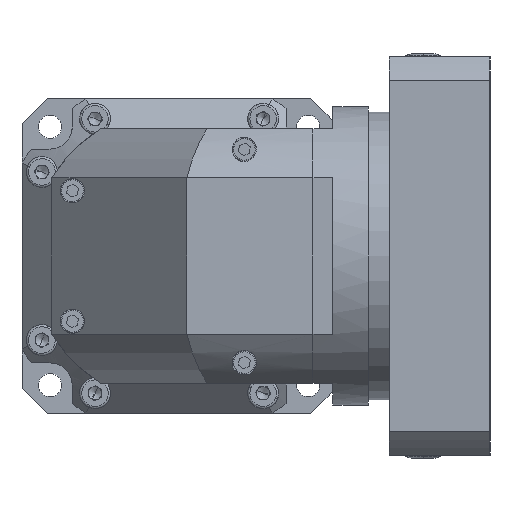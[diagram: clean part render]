
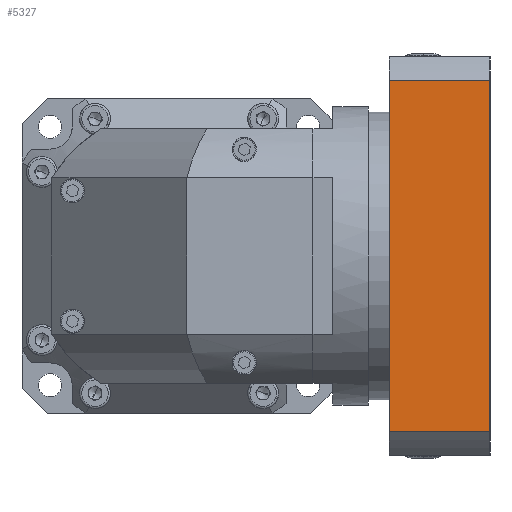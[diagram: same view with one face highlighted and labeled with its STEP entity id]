
A CAD part, left-side view. The second image highlights one B-rep face of the part: STEP entity #5327.
In plain terms, the highlighted planar face has unit normal (-1, 0, 0).
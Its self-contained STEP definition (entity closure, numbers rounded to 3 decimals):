
#119 = VECTOR ( 'NONE', #23715, 1000. ) ;
#2751 = VERTEX_POINT ( 'NONE', #17478 ) ;
#4899 = CARTESIAN_POINT ( 'NONE',  ( -217.5, -140.499, 0. ) ) ;
#5327 = ADVANCED_FACE ( 'NONE', ( #9488 ), #19821, .F. ) ;
#7541 = EDGE_CURVE ( 'NONE', #18194, #13943, #14035, .T. ) ;
#7959 = CARTESIAN_POINT ( 'NONE',  ( -217.5, -140.499, 79.373 ) ) ;
#8425 = DIRECTION ( 'NONE',  ( 0., 0., -1. ) ) ;
#8555 = CARTESIAN_POINT ( 'NONE',  ( -217.5, -140.499, 79.373 ) ) ;
#9307 = ORIENTED_EDGE ( 'NONE', *, *, #7541, .F. ) ;
#9488 = FACE_OUTER_BOUND ( 'NONE', #24497, .T. ) ;
#10242 = VECTOR ( 'NONE', #15216, 1000. ) ;
#12348 = CARTESIAN_POINT ( 'NONE',  ( -217.5, -140.499, -79.373 ) ) ;
#13943 = VERTEX_POINT ( 'NONE', #8555 ) ;
#14003 = VERTEX_POINT ( 'NONE', #26939 ) ;
#14035 = LINE ( 'NONE', #7959, #24715 ) ;
#15216 = DIRECTION ( 'NONE',  ( 0., 0., 1. ) ) ;
#16316 = LINE ( 'NONE', #28890, #10242 ) ;
#16959 = VECTOR ( 'NONE', #20884, 1000. ) ;
#17478 = CARTESIAN_POINT ( 'NONE',  ( -217.5, -140.499, -79.373 ) ) ;
#17603 = LINE ( 'NONE', #12348, #119 ) ;
#18194 = VERTEX_POINT ( 'NONE', #19368 ) ;
#19357 = DIRECTION ( 'NONE',  ( 0., -1., 0. ) ) ;
#19368 = CARTESIAN_POINT ( 'NONE',  ( -217.5, -94.999, 79.373 ) ) ;
#19821 = PLANE ( 'NONE',  #20708 ) ;
#20086 = ORIENTED_EDGE ( 'NONE', *, *, #22881, .F. ) ;
#20708 = AXIS2_PLACEMENT_3D ( 'NONE', #24303, #22135, #8425 ) ;
#20884 = DIRECTION ( 'NONE',  ( 0., 0., -1. ) ) ;
#22135 = DIRECTION ( 'NONE',  ( 1., 0., 0. ) ) ;
#22881 = EDGE_CURVE ( 'NONE', #2751, #14003, #17603, .T. ) ;
#23715 = DIRECTION ( 'NONE',  ( 0., 1., 0. ) ) ;
#24303 = CARTESIAN_POINT ( 'NONE',  ( -217.5, -94.999, -87.617 ) ) ;
#24497 = EDGE_LOOP ( 'NONE', ( #26306, #20086, #29026, #9307 ) ) ;
#24715 = VECTOR ( 'NONE', #19357, 1000. ) ;
#25511 = EDGE_CURVE ( 'NONE', #14003, #18194, #16316, .T. ) ;
#26306 = ORIENTED_EDGE ( 'NONE', *, *, #25511, .F. ) ;
#26939 = CARTESIAN_POINT ( 'NONE',  ( -217.5, -94.999, -79.373 ) ) ;
#26986 = EDGE_CURVE ( 'NONE', #13943, #2751, #28354, .T. ) ;
#28354 = LINE ( 'NONE', #4899, #16959 ) ;
#28890 = CARTESIAN_POINT ( 'NONE',  ( -217.5, -94.999, -87.617 ) ) ;
#29026 = ORIENTED_EDGE ( 'NONE', *, *, #26986, .F. ) ;
